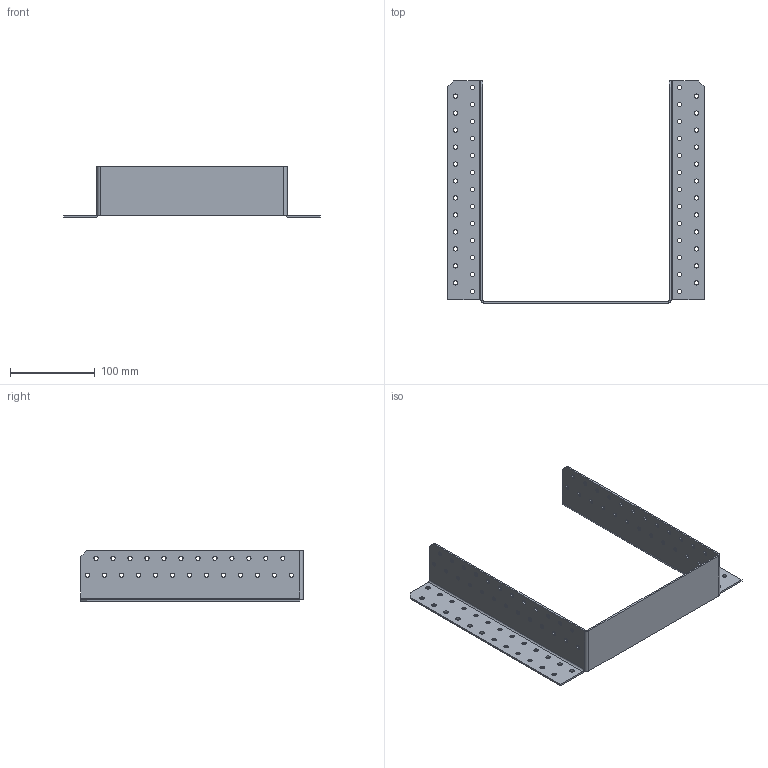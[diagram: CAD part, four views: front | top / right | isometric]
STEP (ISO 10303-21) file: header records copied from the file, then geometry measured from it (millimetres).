
FILE_DESCRIPTION (( 'STEP AP203' ), '1' );
FILE_NAME ('405292.STEP', '2021-04-17T18:08:19', ( '' ), ( '' ), 'SwSTEP 2.0', 'SolidWorks 2013', '' );
FILE_SCHEMA (( 'CONFIG_CONTROL_DESIGN' ));
Length unit declared in the file: millimetre
Products named in the file (1): 405292
Bounding box: 302 x 262 x 60 mm (x, y, z)
Volume: 122865.5 mm3; surface area: 129491 mm2
Topology: 1 solids, 1 shells, 244 faces, 696 edges, 454 vertices
Faces by surface type: cylinder 208, plane 36
Entity records: 8635 total; most frequent: DIRECTION 1604, CARTESIAN_POINT 1395, ORIENTED_EDGE 1392, EDGE_CURVE 696, AXIS2_PLACEMENT_3D 663, VERTEX_POINT 454, EDGE_LOOP 444, CIRCLE 418
